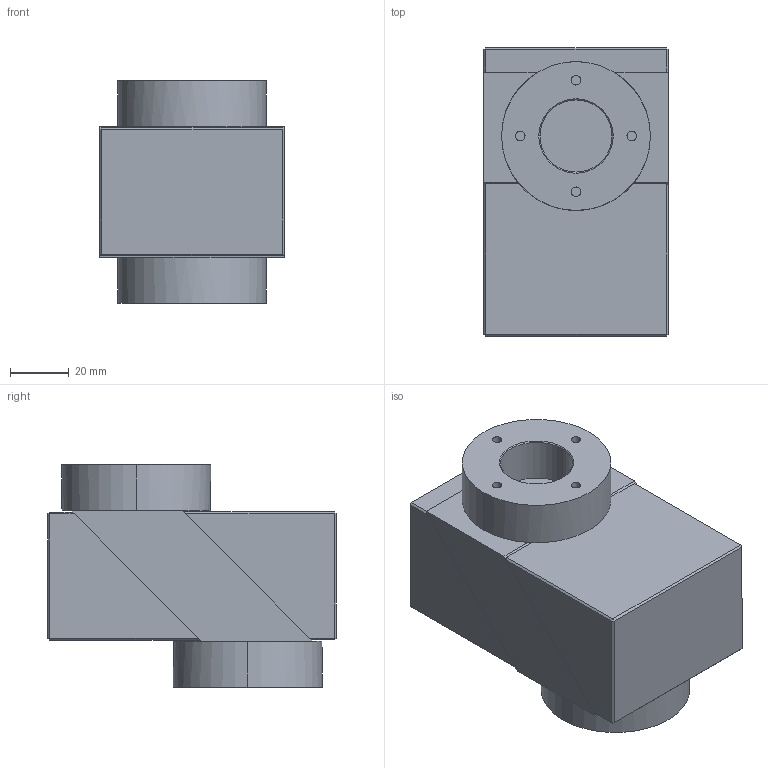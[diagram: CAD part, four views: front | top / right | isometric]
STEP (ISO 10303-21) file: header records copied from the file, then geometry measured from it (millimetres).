
FILE_DESCRIPTION (( 'STEP AP214' ), '1' );
FILE_NAME ('CPU-19-9.4.STEP', '2016-06-27T17:51:06', ( '' ), ( '' ), 'SwSTEP 2.0', 'SolidWorks 2016', '' );
FILE_SCHEMA (( 'AUTOMOTIVE_DESIGN' ));
Length unit declared in the file: inch
Products named in the file (1): CPU-19-9.4
Bounding box: 62.99 x 98.57 x 75.95 mm (x, y, z)
Volume: 321764.9 mm3; surface area: 35934.1 mm2
Topology: 1 solids, 1 shells, 90 faces, 190 edges, 112 vertices
Faces by surface type: plane 62, cylinder 24, cone 4
Entity records: 2662 total; most frequent: DIRECTION 432, CARTESIAN_POINT 393, ORIENTED_EDGE 380, EDGE_CURVE 190, AXIS2_PLACEMENT_3D 151, LINE 130, VECTOR 130, VERTEX_POINT 112
